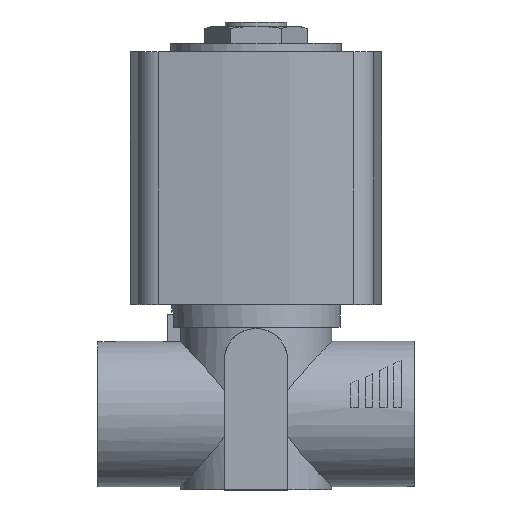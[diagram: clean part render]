
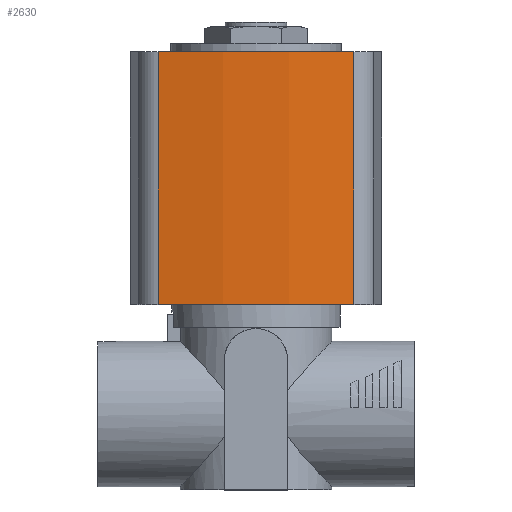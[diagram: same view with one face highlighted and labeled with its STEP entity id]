
A CAD part, top view. The second image highlights one B-rep face of the part: STEP entity #2630.
In plain terms, the highlighted cylindrical face has radius 80 mm (diameter 160 mm), a partial arc.
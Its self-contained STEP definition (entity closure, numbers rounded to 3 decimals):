
#177=CIRCLE('',#2819,80.);
#185=CIRCLE('',#2832,80.);
#553=ORIENTED_EDGE('',*,*,#908,.T.);
#554=ORIENTED_EDGE('',*,*,#909,.F.);
#555=ORIENTED_EDGE('',*,*,#895,.F.);
#556=ORIENTED_EDGE('',*,*,#907,.T.);
#895=EDGE_CURVE('',#1105,#1106,#177,.T.);
#907=EDGE_CURVE('',#1105,#1112,#1248,.T.);
#908=EDGE_CURVE('',#1112,#1113,#185,.T.);
#909=EDGE_CURVE('',#1106,#1113,#1249,.T.);
#1105=VERTEX_POINT('',#3888);
#1106=VERTEX_POINT('',#3890);
#1112=VERTEX_POINT('',#3911);
#1113=VERTEX_POINT('',#3915);
#1248=LINE('',#3912,#1373);
#1249=LINE('',#3916,#1374);
#1373=VECTOR('',#3290,1000.);
#1374=VECTOR('',#3295,1000.);
#1504=EDGE_LOOP('',(#553,#554,#555,#556));
#1658=FACE_BOUND('',#1504,.T.);
#1737=CYLINDRICAL_SURFACE('',#2831,80.);
#2630=ADVANCED_FACE('',(#1658),#1737,.T.);
#2819=AXIS2_PLACEMENT_3D('',#3889,#3262,#3263);
#2831=AXIS2_PLACEMENT_3D('',#3913,#3291,#3292);
#2832=AXIS2_PLACEMENT_3D('',#3914,#3293,#3294);
#3262=DIRECTION('',(0.,1.,0.));
#3263=DIRECTION('',(1.,0.,0.));
#3290=DIRECTION('',(0.,-1.,0.));
#3291=DIRECTION('',(0.,-1.,0.));
#3292=DIRECTION('',(0.,0.,-1.));
#3293=DIRECTION('',(0.,1.,0.));
#3294=DIRECTION('',(1.,0.,0.));
#3295=DIRECTION('',(0.,-1.,0.));
#3888=CARTESIAN_POINT('',(21.99,14.,15.472));
#3889=CARTESIAN_POINT('',(-56.5,14.,0.));
#3890=CARTESIAN_POINT('',(21.99,14.,-15.472));
#3911=CARTESIAN_POINT('',(21.99,-26.,15.472));
#3912=CARTESIAN_POINT('',(21.99,14.,15.472));
#3913=CARTESIAN_POINT('',(-56.5,14.,0.));
#3914=CARTESIAN_POINT('',(-56.5,-26.,0.));
#3915=CARTESIAN_POINT('',(21.99,-26.,-15.472));
#3916=CARTESIAN_POINT('',(21.99,14.,-15.472));
